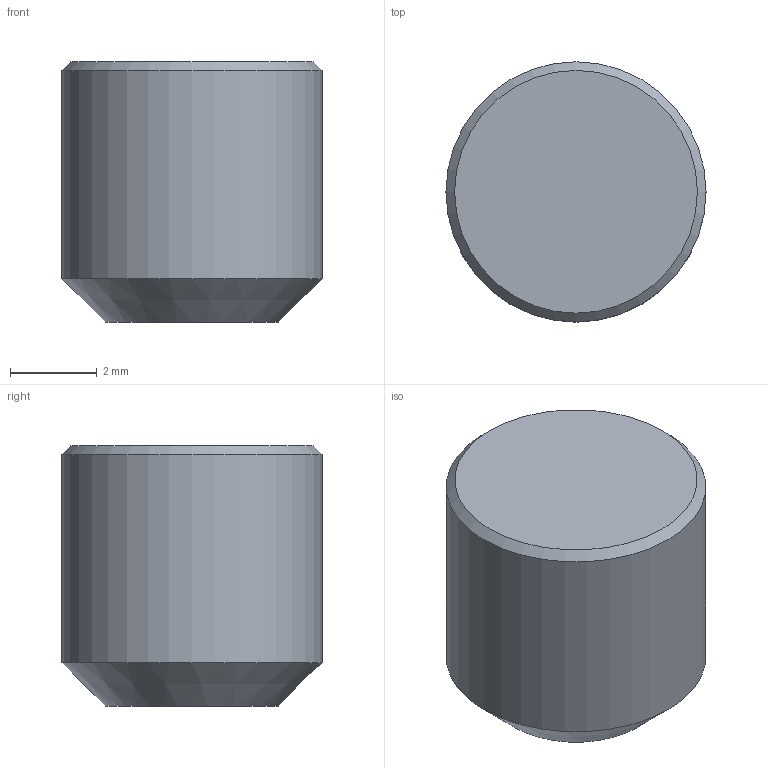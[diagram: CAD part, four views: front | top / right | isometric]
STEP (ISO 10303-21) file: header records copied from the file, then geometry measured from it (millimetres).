
FILE_DESCRIPTION(/* description */ ('Plate'),/* implementation_level */ '2;1');
FILE_NAME(/* name */ 'Z:\Werkstatt Server\Projekte\Atlas\Entwicklung u. Konstruktion\Konstruktion\CAD Daten\ITkPixToolV2.0\Baremodule Jig\ITPTv2.01.00.14.stp',/* time_stamp */ '2021-08-06T14:55:15+02:00',/* author */ ('Tim Kanngießer'),/* organization */ (''),/* preprocessor_version */ 'ST-DEVELOPER v18.1',/* originating_system */ 'Autodesk Inventor 2022',/* authorisation */ '');
FILE_SCHEMA (('AUTOMOTIVE_DESIGN { 1 0 10303 214 3 1 1 }'));
Length unit declared in the file: millimetre
Products named in the file (1): ITPTv2.01.00.14
Bounding box: 6 x 6 x 6 mm (x, y, z)
Volume: 138.4 mm3; surface area: 190.6 mm2
Topology: 1 solids, 1 shells, 7 faces, 14 edges, 9 vertices
Faces by surface type: cone 3, cylinder 2, plane 2
Full cylindrical faces by diameter (mm): 2.459 x1, 6 x1
Entity records: 233 total; most frequent: DIRECTION 37, CARTESIAN_POINT 30, ORIENTED_EDGE 26, AXIS2_PLACEMENT_3D 16, EDGE_CURVE 13, VERTEX_POINT 9, EDGE_LOOP 8, CIRCLE 8
